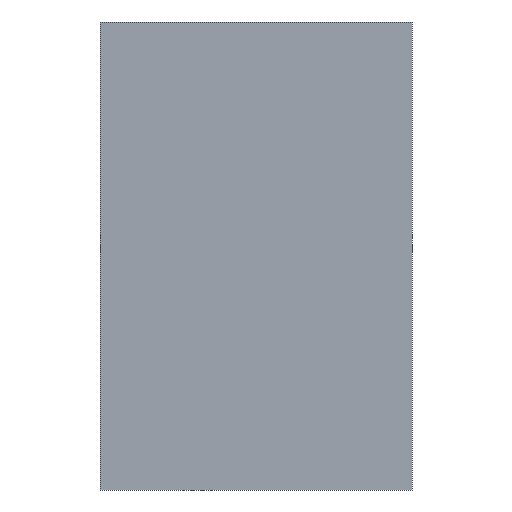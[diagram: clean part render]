
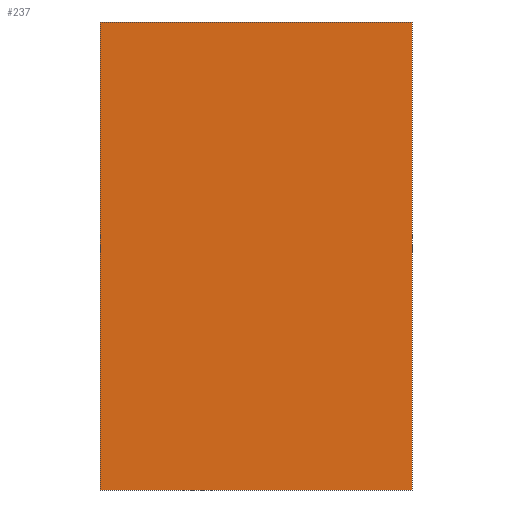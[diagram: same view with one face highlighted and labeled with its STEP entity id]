
A CAD part, front view. The second image highlights one B-rep face of the part: STEP entity #237.
In plain terms, the highlighted planar face has unit normal (0, -1, 0).
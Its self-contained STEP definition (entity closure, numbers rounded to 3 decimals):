
#21 = EDGE_CURVE('',#22,#24,#26,.T.);
#22 = VERTEX_POINT('',#23);
#23 = CARTESIAN_POINT('',(17.5,-6.8,22.75));
#24 = VERTEX_POINT('',#25);
#25 = CARTESIAN_POINT('',(17.5,-6.8,63.25));
#26 = SURFACE_CURVE('',#27,(#31,#43),.PCURVE_S1.);
#27 = LINE('',#28,#29);
#28 = CARTESIAN_POINT('',(17.5,-6.8,22.75));
#29 = VECTOR('',#30,1.);
#30 = DIRECTION('',(0.,0.,1.));
#31 = PCURVE('',#32,#37);
#32 = PLANE('',#33);
#33 = AXIS2_PLACEMENT_3D('',#34,#35,#36);
#34 = CARTESIAN_POINT('',(17.5,-6.8,22.75));
#35 = DIRECTION('',(1.,0.,0.));
#36 = DIRECTION('',(0.,0.,1.));
#37 = DEFINITIONAL_REPRESENTATION('',(#38),#42);
#38 = LINE('',#39,#40);
#39 = CARTESIAN_POINT('',(0.,0.));
#40 = VECTOR('',#41,1.);
#41 = DIRECTION('',(1.,0.));
#42 = ( GEOMETRIC_REPRESENTATION_CONTEXT(2) 
PARAMETRIC_REPRESENTATION_CONTEXT() REPRESENTATION_CONTEXT('2D SPACE',''
  ) );
#43 = PCURVE('',#44,#49);
#44 = PLANE('',#45);
#45 = AXIS2_PLACEMENT_3D('',#46,#47,#48);
#46 = CARTESIAN_POINT('',(17.5,-6.8,22.75));
#47 = DIRECTION('',(0.,1.,0.));
#48 = DIRECTION('',(0.,0.,1.));
#49 = DEFINITIONAL_REPRESENTATION('',(#50),#54);
#50 = LINE('',#51,#52);
#51 = CARTESIAN_POINT('',(0.,0.));
#52 = VECTOR('',#53,1.);
#53 = DIRECTION('',(1.,0.));
#54 = ( GEOMETRIC_REPRESENTATION_CONTEXT(2) 
PARAMETRIC_REPRESENTATION_CONTEXT() REPRESENTATION_CONTEXT('2D SPACE',''
  ) );
#72 = PLANE('',#73);
#73 = AXIS2_PLACEMENT_3D('',#74,#75,#76);
#74 = CARTESIAN_POINT('',(17.5,-6.8,22.75));
#75 = DIRECTION('',(0.,0.,1.));
#76 = DIRECTION('',(1.,0.,0.));
#126 = PLANE('',#127);
#127 = AXIS2_PLACEMENT_3D('',#128,#129,#130);
#128 = CARTESIAN_POINT('',(17.5,-6.8,63.25));
#129 = DIRECTION('',(0.,0.,1.));
#130 = DIRECTION('',(1.,0.,0.));
#141 = EDGE_CURVE('',#142,#144,#146,.T.);
#142 = VERTEX_POINT('',#143);
#143 = CARTESIAN_POINT('',(44.5,-6.8,22.75));
#144 = VERTEX_POINT('',#145);
#145 = CARTESIAN_POINT('',(44.5,-6.8,63.25));
#146 = SURFACE_CURVE('',#147,(#151,#163),.PCURVE_S1.);
#147 = LINE('',#148,#149);
#148 = CARTESIAN_POINT('',(44.5,-6.8,22.75));
#149 = VECTOR('',#150,1.);
#150 = DIRECTION('',(0.,0.,1.));
#151 = PCURVE('',#152,#157);
#152 = PLANE('',#153);
#153 = AXIS2_PLACEMENT_3D('',#154,#155,#156);
#154 = CARTESIAN_POINT('',(44.5,-6.8,22.75));
#155 = DIRECTION('',(1.,0.,0.));
#156 = DIRECTION('',(0.,0.,1.));
#157 = DEFINITIONAL_REPRESENTATION('',(#158),#162);
#158 = LINE('',#159,#160);
#159 = CARTESIAN_POINT('',(0.,0.));
#160 = VECTOR('',#161,1.);
#161 = DIRECTION('',(1.,0.));
#162 = ( GEOMETRIC_REPRESENTATION_CONTEXT(2) 
PARAMETRIC_REPRESENTATION_CONTEXT() REPRESENTATION_CONTEXT('2D SPACE',''
  ) );
#163 = PCURVE('',#44,#164);
#164 = DEFINITIONAL_REPRESENTATION('',(#165),#169);
#165 = LINE('',#166,#167);
#166 = CARTESIAN_POINT('',(0.,27.));
#167 = VECTOR('',#168,1.);
#168 = DIRECTION('',(1.,0.));
#169 = ( GEOMETRIC_REPRESENTATION_CONTEXT(2) 
PARAMETRIC_REPRESENTATION_CONTEXT() REPRESENTATION_CONTEXT('2D SPACE',''
  ) );
#237 = ADVANCED_FACE('',(#238),#44,.F.);
#238 = FACE_BOUND('',#239,.F.);
#239 = EDGE_LOOP('',(#240,#261,#262,#283));
#240 = ORIENTED_EDGE('',*,*,#241,.F.);
#241 = EDGE_CURVE('',#22,#142,#242,.T.);
#242 = SURFACE_CURVE('',#243,(#247,#254),.PCURVE_S1.);
#243 = LINE('',#244,#245);
#244 = CARTESIAN_POINT('',(17.5,-6.8,22.75));
#245 = VECTOR('',#246,1.);
#246 = DIRECTION('',(1.,0.,0.));
#247 = PCURVE('',#44,#248);
#248 = DEFINITIONAL_REPRESENTATION('',(#249),#253);
#249 = LINE('',#250,#251);
#250 = CARTESIAN_POINT('',(0.,0.));
#251 = VECTOR('',#252,1.);
#252 = DIRECTION('',(0.,1.));
#253 = ( GEOMETRIC_REPRESENTATION_CONTEXT(2) 
PARAMETRIC_REPRESENTATION_CONTEXT() REPRESENTATION_CONTEXT('2D SPACE',''
  ) );
#254 = PCURVE('',#72,#255);
#255 = DEFINITIONAL_REPRESENTATION('',(#256),#260);
#256 = LINE('',#257,#258);
#257 = CARTESIAN_POINT('',(0.,0.));
#258 = VECTOR('',#259,1.);
#259 = DIRECTION('',(1.,0.));
#260 = ( GEOMETRIC_REPRESENTATION_CONTEXT(2) 
PARAMETRIC_REPRESENTATION_CONTEXT() REPRESENTATION_CONTEXT('2D SPACE',''
  ) );
#261 = ORIENTED_EDGE('',*,*,#21,.T.);
#262 = ORIENTED_EDGE('',*,*,#263,.T.);
#263 = EDGE_CURVE('',#24,#144,#264,.T.);
#264 = SURFACE_CURVE('',#265,(#269,#276),.PCURVE_S1.);
#265 = LINE('',#266,#267);
#266 = CARTESIAN_POINT('',(17.5,-6.8,63.25));
#267 = VECTOR('',#268,1.);
#268 = DIRECTION('',(1.,0.,0.));
#269 = PCURVE('',#44,#270);
#270 = DEFINITIONAL_REPRESENTATION('',(#271),#275);
#271 = LINE('',#272,#273);
#272 = CARTESIAN_POINT('',(40.5,0.));
#273 = VECTOR('',#274,1.);
#274 = DIRECTION('',(0.,1.));
#275 = ( GEOMETRIC_REPRESENTATION_CONTEXT(2) 
PARAMETRIC_REPRESENTATION_CONTEXT() REPRESENTATION_CONTEXT('2D SPACE',''
  ) );
#276 = PCURVE('',#126,#277);
#277 = DEFINITIONAL_REPRESENTATION('',(#278),#282);
#278 = LINE('',#279,#280);
#279 = CARTESIAN_POINT('',(0.,0.));
#280 = VECTOR('',#281,1.);
#281 = DIRECTION('',(1.,0.));
#282 = ( GEOMETRIC_REPRESENTATION_CONTEXT(2) 
PARAMETRIC_REPRESENTATION_CONTEXT() REPRESENTATION_CONTEXT('2D SPACE',''
  ) );
#283 = ORIENTED_EDGE('',*,*,#141,.F.);
